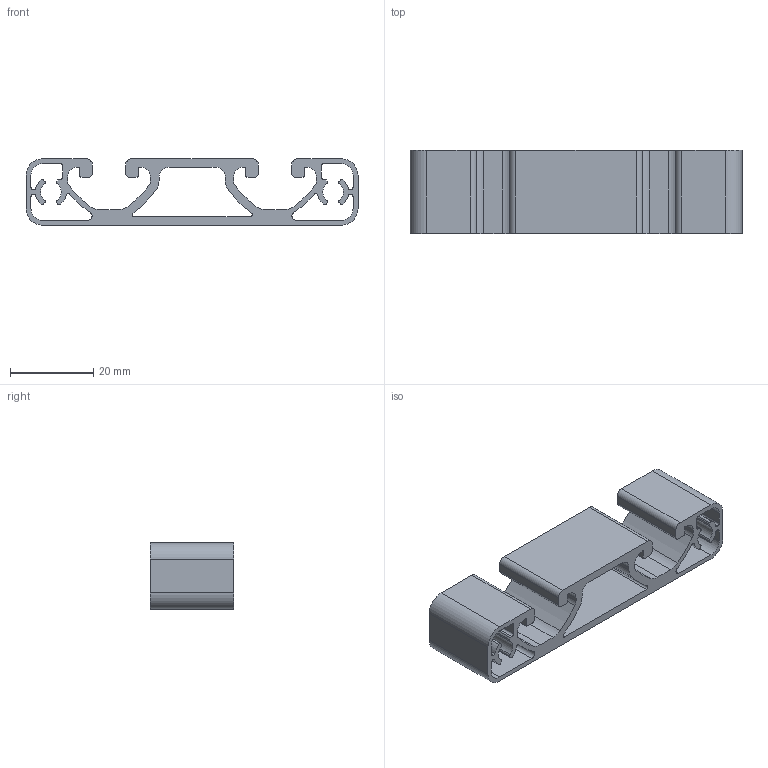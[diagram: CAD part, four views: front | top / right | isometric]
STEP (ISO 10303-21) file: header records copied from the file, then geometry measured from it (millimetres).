
FILE_DESCRIPTION(('STEP AP214'),'1');
FILE_NAME('cctmp_82F852F6-0055-44ED-A1F4-41BE5B9EA09D_2023_04_25_14_32_46_0096_19900..stp','2023-04-25T12:32:46',('item Industrietechnik GmbH'),('CADClick - www.CADClick.com'),'Spatial InterOp 3D',' ','unknown authorization');
FILE_SCHEMA(('AUTOMOTIVE_DESIGN'));
Length unit declared in the file: millimetre
Products named in the file (2): item_7000015_Profile 8 80x16 E_L=20; item_7000015_Profile 8 80x16 E_L=20_1
Assembly tree (1 placements, depth 2):
  item_7000015_Profile 8 80x16 E_L=20
    item_7000015_Profile 8 80x16 E_L=20_1
Bounding box: 80 x 20 x 16 mm (x, y, z)
Volume: 9262.4 mm3; surface area: 10756.1 mm2
Topology: 1 solids, 1 shells, 148 faces, 438 edges, 292 vertices
Faces by surface type: cylinder 92, plane 56
Entity records: 6273 total; most frequent: DIRECTION 922, CARTESIAN_POINT 880, ORIENTED_EDGE 876, EDGE_CURVE 438, AXIS2_PLACEMENT_3D 334, VERTEX_POINT 292, LINE 254, VECTOR 254
